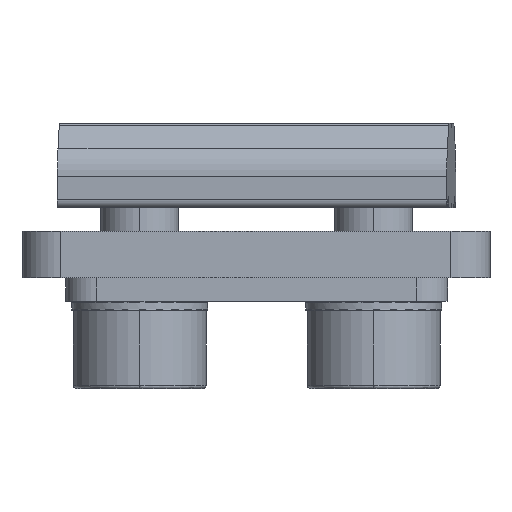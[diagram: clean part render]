
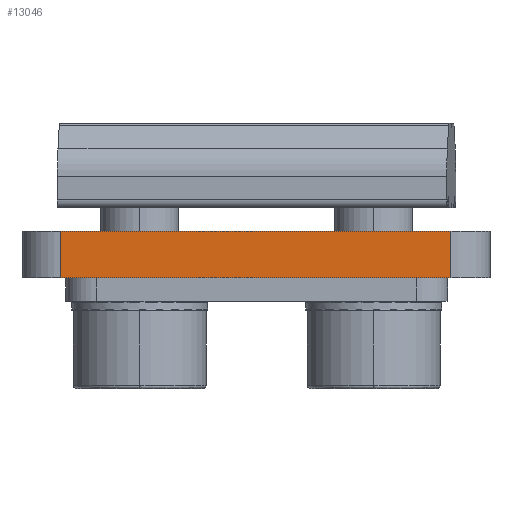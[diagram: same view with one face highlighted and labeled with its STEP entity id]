
A CAD part, front view. The second image highlights one B-rep face of the part: STEP entity #13046.
In plain terms, the highlighted planar face has unit normal (0, -1, 0).
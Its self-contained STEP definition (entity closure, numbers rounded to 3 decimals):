
#444 = ORIENTED_EDGE ( 'NONE', *, *, #4827, .F. ) ;
#1265 = LINE ( 'NONE', #8503, #10494 ) ;
#1319 = LINE ( 'NONE', #4698, #6546 ) ;
#2504 = EDGE_CURVE ( 'NONE', #7325, #21257, #1319, .T. ) ;
#2863 = VECTOR ( 'NONE', #8252, 1000. ) ;
#3452 = AXIS2_PLACEMENT_3D ( 'NONE', #6324, #20043, #8310 ) ;
#3483 = LINE ( 'NONE', #4462, #2863 ) ;
#3900 = CARTESIAN_POINT ( 'NONE',  ( -64.164, -61.139, 36.331 ) ) ;
#4075 = LINE ( 'NONE', #22937, #14494 ) ;
#4462 = CARTESIAN_POINT ( 'NONE',  ( -51.664, -61.139, 36.331 ) ) ;
#4698 = CARTESIAN_POINT ( 'NONE',  ( -39.164, -61.139, 34.831 ) ) ;
#4827 = EDGE_CURVE ( 'NONE', #21257, #16481, #4075, .T. ) ;
#6324 = CARTESIAN_POINT ( 'NONE',  ( -64.164, -61.139, 33.331 ) ) ;
#6546 = VECTOR ( 'NONE', #16451, 1000. ) ;
#7325 = VERTEX_POINT ( 'NONE', #7533 ) ;
#7533 = CARTESIAN_POINT ( 'NONE',  ( -39.164, -61.139, 36.331 ) ) ;
#8252 = DIRECTION ( 'NONE',  ( -1., 0., 0. ) ) ;
#8310 = DIRECTION ( 'NONE',  ( 0., 0., 1. ) ) ;
#8503 = CARTESIAN_POINT ( 'NONE',  ( -64.164, -61.139, 34.831 ) ) ;
#8969 = EDGE_CURVE ( 'NONE', #7325, #9146, #3483, .T. ) ;
#9146 = VERTEX_POINT ( 'NONE', #3900 ) ;
#9963 = EDGE_CURVE ( 'NONE', #16481, #9146, #1265, .T. ) ;
#10393 = DIRECTION ( 'NONE',  ( 0., 0., 1. ) ) ;
#10494 = VECTOR ( 'NONE', #10393, 1000. ) ;
#11228 = DIRECTION ( 'NONE',  ( -1., 0., 0. ) ) ;
#12266 = FACE_OUTER_BOUND ( 'NONE', #20754, .T. ) ;
#13046 = ADVANCED_FACE ( 'NONE', ( #12266 ), #14044, .F. ) ;
#14044 = PLANE ( 'NONE',  #3452 ) ;
#14494 = VECTOR ( 'NONE', #11228, 1000. ) ;
#15492 = ORIENTED_EDGE ( 'NONE', *, *, #9963, .F. ) ;
#16451 = DIRECTION ( 'NONE',  ( 0., 0., -1. ) ) ;
#16481 = VERTEX_POINT ( 'NONE', #22408 ) ;
#18280 = ORIENTED_EDGE ( 'NONE', *, *, #8969, .T. ) ;
#20043 = DIRECTION ( 'NONE',  ( 0., 1., 0. ) ) ;
#20754 = EDGE_LOOP ( 'NONE', ( #18280, #15492, #444, #21313 ) ) ;
#21257 = VERTEX_POINT ( 'NONE', #22722 ) ;
#21313 = ORIENTED_EDGE ( 'NONE', *, *, #2504, .F. ) ;
#22408 = CARTESIAN_POINT ( 'NONE',  ( -64.164, -61.139, 33.331 ) ) ;
#22722 = CARTESIAN_POINT ( 'NONE',  ( -39.164, -61.139, 33.331 ) ) ;
#22937 = CARTESIAN_POINT ( 'NONE',  ( -51.664, -61.139, 33.331 ) ) ;
